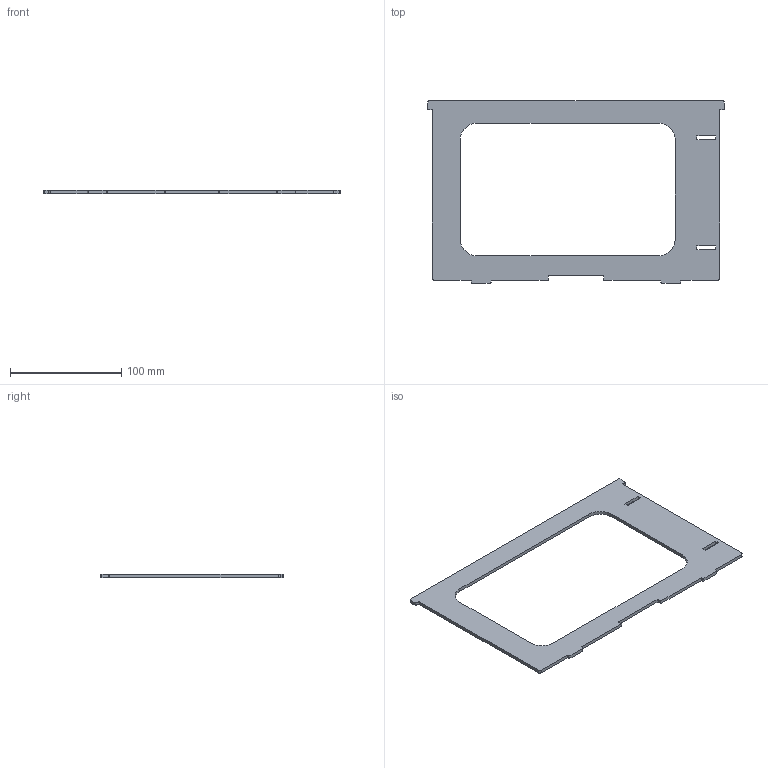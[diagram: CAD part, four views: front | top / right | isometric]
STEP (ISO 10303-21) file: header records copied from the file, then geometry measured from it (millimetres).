
FILE_DESCRIPTION((''),'2;1');
FILE_NAME('288093','2022-12-14T09:30:26',('vmorco'),(''),'CREO PARAMETRIC BY PTC INC, 2020454','CREO PARAMETRIC BY PTC INC, 2020454','');
FILE_SCHEMA(('AUTOMOTIVE_DESIGN { 1 0 10303 214 1 1 1 1 }'));
Length unit declared in the file: millimetre
Products named in the file (1): 288093
Bounding box: 266 x 163.5 x 3 mm (x, y, z)
Volume: 55788.4 mm3; surface area: 41831 mm2
Topology: 1 solids, 1 shells, 50 faces, 144 edges, 96 vertices
Faces by surface type: plane 34, cylinder 16
Entity records: 1723 total; most frequent: CARTESIAN_POINT 292, ORIENTED_EDGE 288, DIRECTION 276, EDGE_CURVE 144, VECTOR 112, LINE 112, VERTEX_POINT 96, AXIS2_PLACEMENT_3D 82
